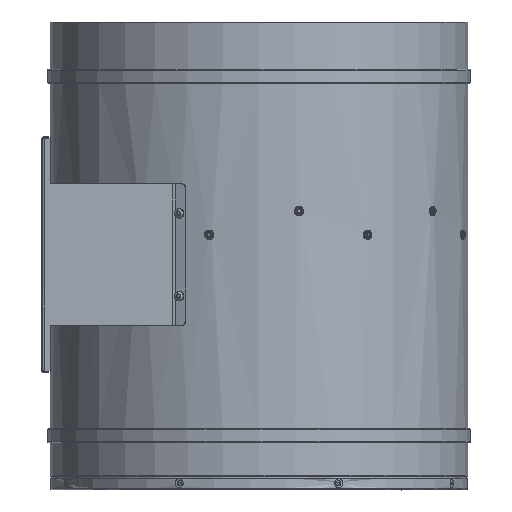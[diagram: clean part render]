
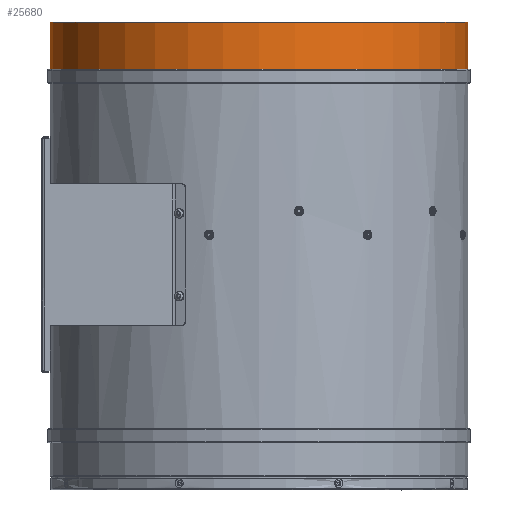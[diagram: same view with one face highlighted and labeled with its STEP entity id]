
A CAD part, left-side view. The second image highlights one B-rep face of the part: STEP entity #25680.
In plain terms, the highlighted cylindrical face has radius 176.75 mm (diameter 353.5 mm), a partial arc.
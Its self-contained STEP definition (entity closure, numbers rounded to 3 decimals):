
#3884 = AXIS2_PLACEMENT_3D ( 'NONE', #20993, #21009, #21017 ) ;
#4140 = AXIS2_PLACEMENT_3D ( 'NONE', #8966, #9321, #8982 ) ;
#4443 = ORIENTED_EDGE ( 'NONE', *, *, #14766, .F. ) ;
#5165 = ORIENTED_EDGE ( 'NONE', *, *, #14641, .T. ) ;
#5405 = ORIENTED_EDGE ( 'NONE', *, *, #14825, .T. ) ;
#5444 = ORIENTED_EDGE ( 'NONE', *, *, #15060, .F. ) ;
#7538 = CIRCLE ( 'NONE', #4140, 176.75 ) ;
#8585 = CARTESIAN_POINT ( 'NONE',  ( -4.314, 177.738, 197.466 ) ) ;
#8732 = CARTESIAN_POINT ( 'NONE',  ( -4.314, -175.762, 197.466 ) ) ;
#8855 = CARTESIAN_POINT ( 'NONE',  ( -4.314, -175.762, 157.466 ) ) ;
#8966 = CARTESIAN_POINT ( 'NONE',  ( -4.314, 0.988, 157.466 ) ) ;
#8982 = DIRECTION ( 'NONE',  ( 0., -1., 0. ) ) ;
#9321 = DIRECTION ( 'NONE',  ( 0., 0., -1. ) ) ;
#9476 = DIRECTION ( 'NONE',  ( 0., -1., 0. ) ) ;
#9483 = DIRECTION ( 'NONE',  ( 0., 0., -1. ) ) ;
#9484 = CARTESIAN_POINT ( 'NONE',  ( -4.314, 0.988, -166.284 ) ) ;
#10513 = CARTESIAN_POINT ( 'NONE',  ( -4.314, 177.738, 157.466 ) ) ;
#11850 = FACE_OUTER_BOUND ( 'NONE', #22852, .T. ) ;
#11986 = CYLINDRICAL_SURFACE ( 'NONE', #26876, 176.75 ) ;
#14641 = EDGE_CURVE ( 'NONE', #21923, #21815, #20865, .T. ) ;
#14766 = EDGE_CURVE ( 'NONE', #21923, #15284, #20687, .T. ) ;
#14825 = EDGE_CURVE ( 'NONE', #21815, #22419, #20387, .T. ) ;
#15060 = EDGE_CURVE ( 'NONE', #15284, #22419, #7538, .T. ) ;
#15284 = VERTEX_POINT ( 'NONE', #8855 ) ;
#20387 = LINE ( 'NONE', #25512, #20391 ) ;
#20391 = VECTOR ( 'NONE', #25255, 1000. ) ;
#20687 = LINE ( 'NONE', #25183, #20693 ) ;
#20693 = VECTOR ( 'NONE', #25547, 1000. ) ;
#20865 = CIRCLE ( 'NONE', #3884, 176.75 ) ;
#20993 = CARTESIAN_POINT ( 'NONE',  ( -4.314, 0.988, 197.466 ) ) ;
#21009 = DIRECTION ( 'NONE',  ( 0., 0., -1. ) ) ;
#21017 = DIRECTION ( 'NONE',  ( 0., -1., 0. ) ) ;
#21815 = VERTEX_POINT ( 'NONE', #8585 ) ;
#21923 = VERTEX_POINT ( 'NONE', #8732 ) ;
#22419 = VERTEX_POINT ( 'NONE', #10513 ) ;
#22852 = EDGE_LOOP ( 'NONE', ( #5165, #5405, #5444, #4443 ) ) ;
#25183 = CARTESIAN_POINT ( 'NONE',  ( -4.314, -175.762, -166.284 ) ) ;
#25255 = DIRECTION ( 'NONE',  ( 0., 0., -1. ) ) ;
#25512 = CARTESIAN_POINT ( 'NONE',  ( -4.314, 177.738, -166.284 ) ) ;
#25547 = DIRECTION ( 'NONE',  ( 0., 0., -1. ) ) ;
#25680 = ADVANCED_FACE ( 'NONE', ( #11850 ), #11986, .T. ) ;
#26876 = AXIS2_PLACEMENT_3D ( 'NONE', #9484, #9483, #9476 ) ;
